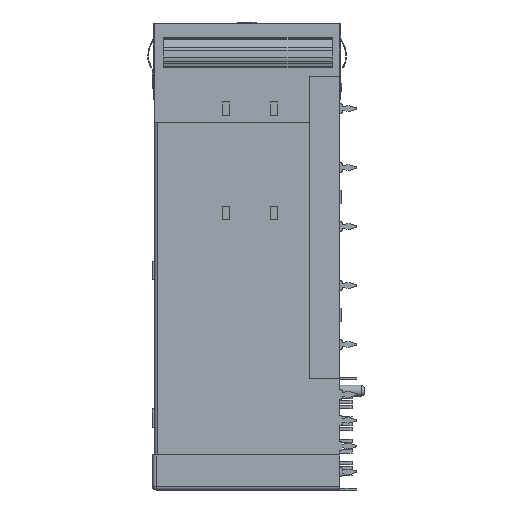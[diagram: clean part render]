
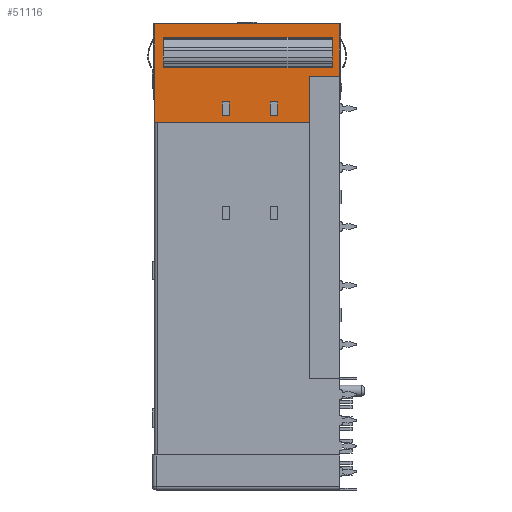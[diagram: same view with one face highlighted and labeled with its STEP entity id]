
A CAD part, left-side view. The second image highlights one B-rep face of the part: STEP entity #51116.
In plain terms, the highlighted planar face has unit normal (-1, 0, 0).
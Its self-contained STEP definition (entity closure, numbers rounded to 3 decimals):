
#1125 = CARTESIAN_POINT ( 'NONE',  ( -21.625, 0., -10.6 ) ) ;
#2513 = VECTOR ( 'NONE', #17699, 1000. ) ;
#3296 = DIRECTION ( 'NONE',  ( 0., 0., -1. ) ) ;
#4720 = LINE ( 'NONE', #27149, #34171 ) ;
#6172 = CARTESIAN_POINT ( 'NONE',  ( -21.625, 0., -12.4 ) ) ;
#6925 = CARTESIAN_POINT ( 'NONE',  ( -21.625, 16., -12.4 ) ) ;
#7022 = DIRECTION ( 'NONE',  ( 0., -1., 0. ) ) ;
#7737 = VERTEX_POINT ( 'NONE', #16226 ) ;
#8314 = CARTESIAN_POINT ( 'NONE',  ( -21.625, 23.95, -1.9 ) ) ;
#8635 = VECTOR ( 'NONE', #47852, 1000. ) ;
#8746 = VECTOR ( 'NONE', #56941, 1000. ) ;
#9864 = CARTESIAN_POINT ( 'NONE',  ( -21.625, 25.3, 0. ) ) ;
#10481 = CARTESIAN_POINT ( 'NONE',  ( -21.625, 15., -10.6 ) ) ;
#11440 = VECTOR ( 'NONE', #72875, 1000. ) ;
#11643 = EDGE_LOOP ( 'NONE', ( #73233, #23931, #35833, #11755 ) ) ;
#11755 = ORIENTED_EDGE ( 'NONE', *, *, #63597, .T. ) ;
#12435 = DIRECTION ( 'NONE',  ( 0., 0., -1. ) ) ;
#12488 = VECTOR ( 'NONE', #72948, 1000. ) ;
#12962 = VERTEX_POINT ( 'NONE', #67794 ) ;
#13053 = LINE ( 'NONE', #47724, #58169 ) ;
#13381 = ORIENTED_EDGE ( 'NONE', *, *, #27439, .T. ) ;
#14257 = DIRECTION ( 'NONE',  ( 0., 1., 0. ) ) ;
#14626 = EDGE_CURVE ( 'NONE', #64737, #18445, #65186, .T. ) ;
#15388 = FACE_BOUND ( 'NONE', #11643, .T. ) ;
#15826 = ORIENTED_EDGE ( 'NONE', *, *, #48197, .T. ) ;
#16226 = CARTESIAN_POINT ( 'NONE',  ( -21.625, 8.45, -12.4 ) ) ;
#17699 = DIRECTION ( 'NONE',  ( 0., 1., 0. ) ) ;
#17837 = ORIENTED_EDGE ( 'NONE', *, *, #19452, .T. ) ;
#18445 = VERTEX_POINT ( 'NONE', #65744 ) ;
#19015 = CARTESIAN_POINT ( 'NONE',  ( -21.625, 25.2, -13.4 ) ) ;
#19171 = CARTESIAN_POINT ( 'NONE',  ( -21.625, 15., 0. ) ) ;
#19452 = EDGE_CURVE ( 'NONE', #48235, #72205, #73272, .T. ) ;
#19957 = CARTESIAN_POINT ( 'NONE',  ( -21.625, 25.1, 0. ) ) ;
#20642 = LINE ( 'NONE', #50135, #30786 ) ;
#20991 = EDGE_CURVE ( 'NONE', #59812, #7737, #73130, .T. ) ;
#21267 = LINE ( 'NONE', #1125, #50776 ) ;
#21401 = VERTEX_POINT ( 'NONE', #65302 ) ;
#21428 = EDGE_CURVE ( 'NONE', #59384, #52065, #26176, .T. ) ;
#23931 = ORIENTED_EDGE ( 'NONE', *, *, #49657, .T. ) ;
#24752 = CARTESIAN_POINT ( 'NONE',  ( -21.625, 1.05, -2.181 ) ) ;
#25641 = EDGE_LOOP ( 'NONE', ( #54011, #53347, #17837, #13381, #69686, #50262 ) ) ;
#25958 = CARTESIAN_POINT ( 'NONE',  ( -21.625, 25.1, -13.4 ) ) ;
#26056 = CARTESIAN_POINT ( 'NONE',  ( -21.625, 8.45, 0. ) ) ;
#26176 = LINE ( 'NONE', #71213, #8635 ) ;
#26441 = EDGE_CURVE ( 'NONE', #7737, #12962, #37468, .T. ) ;
#27149 = CARTESIAN_POINT ( 'NONE',  ( -21.625, 0., -7.1 ) ) ;
#27439 = EDGE_CURVE ( 'NONE', #72205, #42606, #71328, .T. ) ;
#28030 = LINE ( 'NONE', #34250, #43680 ) ;
#28174 = LINE ( 'NONE', #19957, #12488 ) ;
#28492 = CARTESIAN_POINT ( 'NONE',  ( -21.625, 9.45, 0. ) ) ;
#29231 = FACE_OUTER_BOUND ( 'NONE', #25641, .T. ) ;
#29279 = EDGE_CURVE ( 'NONE', #52065, #21401, #13053, .T. ) ;
#29573 = ORIENTED_EDGE ( 'NONE', *, *, #29279, .F. ) ;
#29695 = VERTEX_POINT ( 'NONE', #33756 ) ;
#30244 = ORIENTED_EDGE ( 'NONE', *, *, #26441, .T. ) ;
#30786 = VECTOR ( 'NONE', #3296, 1000. ) ;
#31759 = CARTESIAN_POINT ( 'NONE',  ( -21.625, 16., 0. ) ) ;
#31954 = DIRECTION ( 'NONE',  ( 0., 0., -1. ) ) ;
#33756 = CARTESIAN_POINT ( 'NONE',  ( -21.625, 1.05, -2.181 ) ) ;
#33888 = VECTOR ( 'NONE', #69604, 1000. ) ;
#33949 = DIRECTION ( 'NONE',  ( 1., 0., 0. ) ) ;
#34048 = EDGE_LOOP ( 'NONE', ( #59559, #39581, #60845, #29573 ) ) ;
#34171 = VECTOR ( 'NONE', #74168, 1000. ) ;
#34250 = CARTESIAN_POINT ( 'NONE',  ( -21.625, 4.1, 0. ) ) ;
#34944 = LINE ( 'NONE', #19171, #50621 ) ;
#35013 = CARTESIAN_POINT ( 'NONE',  ( -21.625, 0.1, 0. ) ) ;
#35071 = EDGE_CURVE ( 'NONE', #60888, #65133, #34944, .T. ) ;
#35736 = VECTOR ( 'NONE', #54299, 1000. ) ;
#35833 = ORIENTED_EDGE ( 'NONE', *, *, #35071, .T. ) ;
#37468 = LINE ( 'NONE', #6172, #2513 ) ;
#39437 = CARTESIAN_POINT ( 'NONE',  ( -21.625, 9.45, -10.6 ) ) ;
#39554 = ORIENTED_EDGE ( 'NONE', *, *, #58758, .T. ) ;
#39581 = ORIENTED_EDGE ( 'NONE', *, *, #60716, .T. ) ;
#39613 = CARTESIAN_POINT ( 'NONE',  ( -21.625, 0., 0. ) ) ;
#42029 = VECTOR ( 'NONE', #64317, 1000. ) ;
#42376 = LINE ( 'NONE', #74455, #61683 ) ;
#42606 = VERTEX_POINT ( 'NONE', #60004 ) ;
#42764 = LINE ( 'NONE', #31759, #11440 ) ;
#43680 = VECTOR ( 'NONE', #75390, 1000. ) ;
#44907 = FACE_BOUND ( 'NONE', #50809, .T. ) ;
#45184 = DIRECTION ( 'NONE',  ( 0., -1., 0. ) ) ;
#45782 = VECTOR ( 'NONE', #54083, 1000. ) ;
#47252 = CARTESIAN_POINT ( 'NONE',  ( -21.625, 15., -12.4 ) ) ;
#47715 = LINE ( 'NONE', #28492, #33888 ) ;
#47724 = CARTESIAN_POINT ( 'NONE',  ( -21.625, 23.95, -1.9 ) ) ;
#47852 = DIRECTION ( 'NONE',  ( 0., 1., 0. ) ) ;
#48197 = EDGE_CURVE ( 'NONE', #52220, #59812, #21267, .T. ) ;
#48235 = VERTEX_POINT ( 'NONE', #60277 ) ;
#48487 = ORIENTED_EDGE ( 'NONE', *, *, #20991, .T. ) ;
#48580 = FACE_BOUND ( 'NONE', #34048, .T. ) ;
#48943 = LINE ( 'NONE', #55441, #64527 ) ;
#49657 = EDGE_CURVE ( 'NONE', #57822, #60888, #42376, .T. ) ;
#50135 = CARTESIAN_POINT ( 'NONE',  ( -21.625, 1.05, -1.9 ) ) ;
#50262 = ORIENTED_EDGE ( 'NONE', *, *, #14626, .T. ) ;
#50621 = VECTOR ( 'NONE', #54451, 1000. ) ;
#50776 = VECTOR ( 'NONE', #7022, 1000. ) ;
#50809 = EDGE_LOOP ( 'NONE', ( #39554, #15826, #48487, #30244 ) ) ;
#51116 = ADVANCED_FACE ( 'NONE', ( #44907, #15388, #48580, #29231 ), #63246, .F. ) ;
#52065 = VERTEX_POINT ( 'NONE', #8314 ) ;
#52220 = VERTEX_POINT ( 'NONE', #39437 ) ;
#53347 = ORIENTED_EDGE ( 'NONE', *, *, #53753, .T. ) ;
#53753 = EDGE_CURVE ( 'NONE', #72544, #48235, #4720, .T. ) ;
#54011 = ORIENTED_EDGE ( 'NONE', *, *, #71364, .T. ) ;
#54083 = DIRECTION ( 'NONE',  ( 0., 1., 0. ) ) ;
#54299 = DIRECTION ( 'NONE',  ( 0., -1., 0. ) ) ;
#54451 = DIRECTION ( 'NONE',  ( 0., 0., -1. ) ) ;
#55441 = CARTESIAN_POINT ( 'NONE',  ( -21.625, 0., -12.4 ) ) ;
#56941 = DIRECTION ( 'NONE',  ( 0., 1., 0. ) ) ;
#56998 = VERTEX_POINT ( 'NONE', #6925 ) ;
#57822 = VERTEX_POINT ( 'NONE', #73642 ) ;
#58169 = VECTOR ( 'NONE', #12435, 1000. ) ;
#58758 = EDGE_CURVE ( 'NONE', #12962, #52220, #47715, .T. ) ;
#59384 = VERTEX_POINT ( 'NONE', #63620 ) ;
#59559 = ORIENTED_EDGE ( 'NONE', *, *, #21428, .F. ) ;
#59812 = VERTEX_POINT ( 'NONE', #68938 ) ;
#59885 = AXIS2_PLACEMENT_3D ( 'NONE', #39613, #33949, #75091 ) ;
#60004 = CARTESIAN_POINT ( 'NONE',  ( -21.625, 25.1, 0. ) ) ;
#60277 = CARTESIAN_POINT ( 'NONE',  ( -21.625, 0.1, -7.1 ) ) ;
#60716 = EDGE_CURVE ( 'NONE', #59384, #29695, #20642, .T. ) ;
#60845 = ORIENTED_EDGE ( 'NONE', *, *, #75344, .T. ) ;
#60888 = VERTEX_POINT ( 'NONE', #10481 ) ;
#61383 = LINE ( 'NONE', #24752, #45782 ) ;
#61683 = VECTOR ( 'NONE', #45184, 1000. ) ;
#63246 = PLANE ( 'NONE',  #59885 ) ;
#63597 = EDGE_CURVE ( 'NONE', #65133, #56998, #48943, .T. ) ;
#63620 = CARTESIAN_POINT ( 'NONE',  ( -21.625, 1.05, -1.9 ) ) ;
#64317 = DIRECTION ( 'NONE',  ( 0., 0., 1. ) ) ;
#64527 = VECTOR ( 'NONE', #14257, 1000. ) ;
#64737 = VERTEX_POINT ( 'NONE', #25958 ) ;
#65133 = VERTEX_POINT ( 'NONE', #47252 ) ;
#65186 = LINE ( 'NONE', #19015, #35736 ) ;
#65302 = CARTESIAN_POINT ( 'NONE',  ( -21.625, 23.95, -2.181 ) ) ;
#65744 = CARTESIAN_POINT ( 'NONE',  ( -21.625, 4.1, -13.4 ) ) ;
#67794 = CARTESIAN_POINT ( 'NONE',  ( -21.625, 9.45, -12.4 ) ) ;
#68083 = EDGE_CURVE ( 'NONE', #56998, #57822, #42764, .T. ) ;
#68938 = CARTESIAN_POINT ( 'NONE',  ( -21.625, 8.45, -10.6 ) ) ;
#69604 = DIRECTION ( 'NONE',  ( 0., 0., 1. ) ) ;
#69686 = ORIENTED_EDGE ( 'NONE', *, *, #70509, .T. ) ;
#70509 = EDGE_CURVE ( 'NONE', #42606, #64737, #28174, .T. ) ;
#70619 = CARTESIAN_POINT ( 'NONE',  ( -21.625, 0.1, 0. ) ) ;
#71213 = CARTESIAN_POINT ( 'NONE',  ( -21.625, 1.05, -1.9 ) ) ;
#71286 = VECTOR ( 'NONE', #31954, 1000. ) ;
#71328 = LINE ( 'NONE', #9864, #8746 ) ;
#71364 = EDGE_CURVE ( 'NONE', #18445, #72544, #28030, .T. ) ;
#72205 = VERTEX_POINT ( 'NONE', #70619 ) ;
#72544 = VERTEX_POINT ( 'NONE', #74428 ) ;
#72875 = DIRECTION ( 'NONE',  ( 0., 0., 1. ) ) ;
#72948 = DIRECTION ( 'NONE',  ( 0., 0., -1. ) ) ;
#73130 = LINE ( 'NONE', #26056, #71286 ) ;
#73233 = ORIENTED_EDGE ( 'NONE', *, *, #68083, .T. ) ;
#73272 = LINE ( 'NONE', #35013, #42029 ) ;
#73642 = CARTESIAN_POINT ( 'NONE',  ( -21.625, 16., -10.6 ) ) ;
#74168 = DIRECTION ( 'NONE',  ( 0., -1., 0. ) ) ;
#74428 = CARTESIAN_POINT ( 'NONE',  ( -21.625, 4.1, -7.1 ) ) ;
#74455 = CARTESIAN_POINT ( 'NONE',  ( -21.625, 0., -10.6 ) ) ;
#75091 = DIRECTION ( 'NONE',  ( 0., 0., -1. ) ) ;
#75344 = EDGE_CURVE ( 'NONE', #29695, #21401, #61383, .T. ) ;
#75390 = DIRECTION ( 'NONE',  ( 0., 0., 1. ) ) ;
